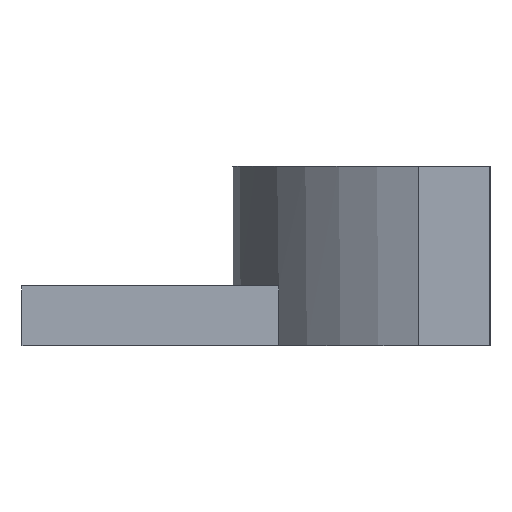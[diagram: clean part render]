
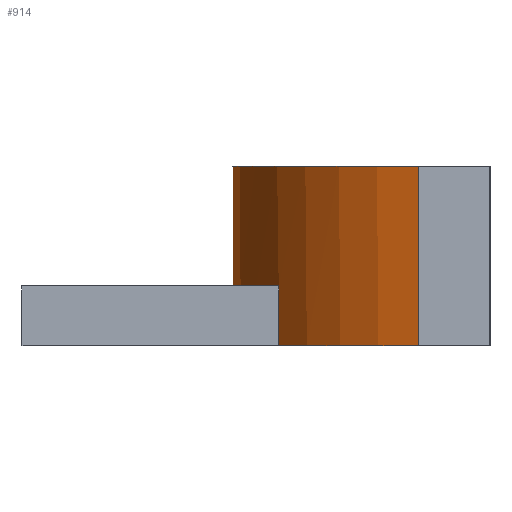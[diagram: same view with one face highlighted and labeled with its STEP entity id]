
A CAD part, left-side view. The second image highlights one B-rep face of the part: STEP entity #914.
In plain terms, the highlighted cylindrical face has radius 17.5 mm (diameter 35 mm), a partial arc.
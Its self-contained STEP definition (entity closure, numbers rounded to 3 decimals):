
#22 = VERTEX_POINT('',#23);
#23 = CARTESIAN_POINT('',(16.771,-10.875,0.));
#32 = PLANE('',#33);
#33 = AXIS2_PLACEMENT_3D('',#34,#35,#36);
#34 = CARTESIAN_POINT('',(0.,-15.875,0.));
#35 = DIRECTION('',(0.,0.,1.));
#36 = DIRECTION('',(1.,0.,-0.));
#44 = PLANE('',#45);
#45 = AXIS2_PLACEMENT_3D('',#46,#47,#48);
#46 = CARTESIAN_POINT('',(-24.5,-10.875,0.));
#47 = DIRECTION('',(0.,1.,0.));
#48 = DIRECTION('',(0.,0.,1.));
#56 = EDGE_CURVE('',#22,#57,#59,.T.);
#57 = VERTEX_POINT('',#58);
#58 = CARTESIAN_POINT('',(10.,-1.514,0.));
#59 = SURFACE_CURVE('',#60,(#65,#72),.PCURVE_S1.);
#60 = CIRCLE('',#61,17.5);
#61 = AXIS2_PLACEMENT_3D('',#62,#63,#64);
#62 = CARTESIAN_POINT('',(0.,-15.875,0.));
#63 = DIRECTION('',(0.,0.,1.));
#64 = DIRECTION('',(1.,0.,0.));
#65 = PCURVE('',#32,#66);
#66 = DEFINITIONAL_REPRESENTATION('',(#67),#71);
#67 = CIRCLE('',#68,17.5);
#68 = AXIS2_PLACEMENT_2D('',#69,#70);
#69 = CARTESIAN_POINT('',(0.,0.));
#70 = DIRECTION('',(1.,0.));
#71 = ( GEOMETRIC_REPRESENTATION_CONTEXT(2) 
PARAMETRIC_REPRESENTATION_CONTEXT() REPRESENTATION_CONTEXT('2D SPACE',''
  ) );
#72 = PCURVE('',#73,#78);
#73 = CYLINDRICAL_SURFACE('',#74,17.5);
#74 = AXIS2_PLACEMENT_3D('',#75,#76,#77);
#75 = CARTESIAN_POINT('',(0.,-15.875,0.));
#76 = DIRECTION('',(-0.,-0.,-1.));
#77 = DIRECTION('',(1.,0.,0.));
#78 = DEFINITIONAL_REPRESENTATION('',(#79),#83);
#79 = LINE('',#80,#81);
#80 = CARTESIAN_POINT('',(-0.,0.));
#81 = VECTOR('',#82,1.);
#82 = DIRECTION('',(-1.,0.));
#83 = ( GEOMETRIC_REPRESENTATION_CONTEXT(2) 
PARAMETRIC_REPRESENTATION_CONTEXT() REPRESENTATION_CONTEXT('2D SPACE',''
  ) );
#101 = PLANE('',#102);
#102 = AXIS2_PLACEMENT_3D('',#103,#104,#105);
#103 = CARTESIAN_POINT('',(10.,-2.375,0.));
#104 = DIRECTION('',(1.,0.,0.));
#105 = DIRECTION('',(0.,0.,1.));
#142 = VERTEX_POINT('',#143);
#143 = CARTESIAN_POINT('',(-10.,-1.514,0.));
#157 = PLANE('',#158);
#158 = AXIS2_PLACEMENT_3D('',#159,#160,#161);
#159 = CARTESIAN_POINT('',(-10.,-2.375,0.));
#160 = DIRECTION('',(1.,0.,0.));
#161 = DIRECTION('',(0.,0.,1.));
#169 = EDGE_CURVE('',#142,#170,#172,.T.);
#170 = VERTEX_POINT('',#171);
#171 = CARTESIAN_POINT('',(-16.771,-10.875,0.));
#172 = SURFACE_CURVE('',#173,(#178,#185),.PCURVE_S1.);
#173 = CIRCLE('',#174,17.5);
#174 = AXIS2_PLACEMENT_3D('',#175,#176,#177);
#175 = CARTESIAN_POINT('',(0.,-15.875,0.));
#176 = DIRECTION('',(0.,0.,1.));
#177 = DIRECTION('',(1.,0.,0.));
#178 = PCURVE('',#32,#179);
#179 = DEFINITIONAL_REPRESENTATION('',(#180),#184);
#180 = CIRCLE('',#181,17.5);
#181 = AXIS2_PLACEMENT_2D('',#182,#183);
#182 = CARTESIAN_POINT('',(0.,0.));
#183 = DIRECTION('',(1.,0.));
#184 = ( GEOMETRIC_REPRESENTATION_CONTEXT(2) 
PARAMETRIC_REPRESENTATION_CONTEXT() REPRESENTATION_CONTEXT('2D SPACE',''
  ) );
#185 = PCURVE('',#73,#186);
#186 = DEFINITIONAL_REPRESENTATION('',(#187),#191);
#187 = LINE('',#188,#189);
#188 = CARTESIAN_POINT('',(-0.,0.));
#189 = VECTOR('',#190,1.);
#190 = DIRECTION('',(-1.,0.));
#191 = ( GEOMETRIC_REPRESENTATION_CONTEXT(2) 
PARAMETRIC_REPRESENTATION_CONTEXT() REPRESENTATION_CONTEXT('2D SPACE',''
  ) );
#209 = PLANE('',#210);
#210 = AXIS2_PLACEMENT_3D('',#211,#212,#213);
#211 = CARTESIAN_POINT('',(-24.5,-10.875,0.));
#212 = DIRECTION('',(0.,1.,0.));
#213 = DIRECTION('',(0.,0.,1.));
#434 = EDGE_CURVE('',#435,#22,#437,.T.);
#435 = VERTEX_POINT('',#436);
#436 = CARTESIAN_POINT('',(16.771,-10.875,12.));
#437 = SURFACE_CURVE('',#438,(#442,#449),.PCURVE_S1.);
#438 = LINE('',#439,#440);
#439 = CARTESIAN_POINT('',(16.771,-10.875,0.));
#440 = VECTOR('',#441,1.);
#441 = DIRECTION('',(-0.,-0.,-1.));
#442 = PCURVE('',#44,#443);
#443 = DEFINITIONAL_REPRESENTATION('',(#444),#448);
#444 = LINE('',#445,#446);
#445 = CARTESIAN_POINT('',(0.,41.271));
#446 = VECTOR('',#447,1.);
#447 = DIRECTION('',(-1.,0.));
#448 = ( GEOMETRIC_REPRESENTATION_CONTEXT(2) 
PARAMETRIC_REPRESENTATION_CONTEXT() REPRESENTATION_CONTEXT('2D SPACE',''
  ) );
#449 = PCURVE('',#73,#450);
#450 = DEFINITIONAL_REPRESENTATION('',(#451),#455);
#451 = LINE('',#452,#453);
#452 = CARTESIAN_POINT('',(-0.29,0.));
#453 = VECTOR('',#454,1.);
#454 = DIRECTION('',(-0.,1.));
#455 = ( GEOMETRIC_REPRESENTATION_CONTEXT(2) 
PARAMETRIC_REPRESENTATION_CONTEXT() REPRESENTATION_CONTEXT('2D SPACE',''
  ) );
#473 = PLANE('',#474);
#474 = AXIS2_PLACEMENT_3D('',#475,#476,#477);
#475 = CARTESIAN_POINT('',(-24.5,-20.875,12.));
#476 = DIRECTION('',(0.,0.,1.));
#477 = DIRECTION('',(1.,0.,0.));
#846 = VERTEX_POINT('',#847);
#847 = CARTESIAN_POINT('',(-16.771,-10.875,12.));
#868 = EDGE_CURVE('',#846,#170,#869,.T.);
#869 = SURFACE_CURVE('',#870,(#874,#881),.PCURVE_S1.);
#870 = LINE('',#871,#872);
#871 = CARTESIAN_POINT('',(-16.771,-10.875,0.));
#872 = VECTOR('',#873,1.);
#873 = DIRECTION('',(-0.,-0.,-1.));
#874 = PCURVE('',#209,#875);
#875 = DEFINITIONAL_REPRESENTATION('',(#876),#880);
#876 = LINE('',#877,#878);
#877 = CARTESIAN_POINT('',(0.,7.729));
#878 = VECTOR('',#879,1.);
#879 = DIRECTION('',(-1.,0.));
#880 = ( GEOMETRIC_REPRESENTATION_CONTEXT(2) 
PARAMETRIC_REPRESENTATION_CONTEXT() REPRESENTATION_CONTEXT('2D SPACE',''
  ) );
#881 = PCURVE('',#73,#882);
#882 = DEFINITIONAL_REPRESENTATION('',(#883),#887);
#883 = LINE('',#884,#885);
#884 = CARTESIAN_POINT('',(-2.852,0.));
#885 = VECTOR('',#886,1.);
#886 = DIRECTION('',(-0.,1.));
#887 = ( GEOMETRIC_REPRESENTATION_CONTEXT(2) 
PARAMETRIC_REPRESENTATION_CONTEXT() REPRESENTATION_CONTEXT('2D SPACE',''
  ) );
#914 = ADVANCED_FACE('',(#915),#73,.T.);
#915 = FACE_BOUND('',#916,.F.);
#916 = EDGE_LOOP('',(#917,#918,#919,#941,#942,#943,#966,#999));
#917 = ORIENTED_EDGE('',*,*,#56,.F.);
#918 = ORIENTED_EDGE('',*,*,#434,.F.);
#919 = ORIENTED_EDGE('',*,*,#920,.T.);
#920 = EDGE_CURVE('',#435,#846,#921,.T.);
#921 = SURFACE_CURVE('',#922,(#927,#934),.PCURVE_S1.);
#922 = CIRCLE('',#923,17.5);
#923 = AXIS2_PLACEMENT_3D('',#924,#925,#926);
#924 = CARTESIAN_POINT('',(0.,-15.875,12.));
#925 = DIRECTION('',(0.,0.,1.));
#926 = DIRECTION('',(1.,0.,0.));
#927 = PCURVE('',#73,#928);
#928 = DEFINITIONAL_REPRESENTATION('',(#929),#933);
#929 = LINE('',#930,#931);
#930 = CARTESIAN_POINT('',(-0.,-12.));
#931 = VECTOR('',#932,1.);
#932 = DIRECTION('',(-1.,0.));
#933 = ( GEOMETRIC_REPRESENTATION_CONTEXT(2) 
PARAMETRIC_REPRESENTATION_CONTEXT() REPRESENTATION_CONTEXT('2D SPACE',''
  ) );
#934 = PCURVE('',#473,#935);
#935 = DEFINITIONAL_REPRESENTATION('',(#936),#940);
#936 = CIRCLE('',#937,17.5);
#937 = AXIS2_PLACEMENT_2D('',#938,#939);
#938 = CARTESIAN_POINT('',(24.5,5.));
#939 = DIRECTION('',(1.,0.));
#940 = ( GEOMETRIC_REPRESENTATION_CONTEXT(2) 
PARAMETRIC_REPRESENTATION_CONTEXT() REPRESENTATION_CONTEXT('2D SPACE',''
  ) );
#941 = ORIENTED_EDGE('',*,*,#868,.T.);
#942 = ORIENTED_EDGE('',*,*,#169,.F.);
#943 = ORIENTED_EDGE('',*,*,#944,.F.);
#944 = EDGE_CURVE('',#945,#142,#947,.T.);
#945 = VERTEX_POINT('',#946);
#946 = CARTESIAN_POINT('',(-10.,-1.514,4.));
#947 = SURFACE_CURVE('',#948,(#952,#959),.PCURVE_S1.);
#948 = LINE('',#949,#950);
#949 = CARTESIAN_POINT('',(-10.,-1.514,0.));
#950 = VECTOR('',#951,1.);
#951 = DIRECTION('',(-0.,-0.,-1.));
#952 = PCURVE('',#73,#953);
#953 = DEFINITIONAL_REPRESENTATION('',(#954),#958);
#954 = LINE('',#955,#956);
#955 = CARTESIAN_POINT('',(-2.179,0.));
#956 = VECTOR('',#957,1.);
#957 = DIRECTION('',(-0.,1.));
#958 = ( GEOMETRIC_REPRESENTATION_CONTEXT(2) 
PARAMETRIC_REPRESENTATION_CONTEXT() REPRESENTATION_CONTEXT('2D SPACE',''
  ) );
#959 = PCURVE('',#157,#960);
#960 = DEFINITIONAL_REPRESENTATION('',(#961),#965);
#961 = LINE('',#962,#963);
#962 = CARTESIAN_POINT('',(0.,-0.861));
#963 = VECTOR('',#964,1.);
#964 = DIRECTION('',(-1.,0.));
#965 = ( GEOMETRIC_REPRESENTATION_CONTEXT(2) 
PARAMETRIC_REPRESENTATION_CONTEXT() REPRESENTATION_CONTEXT('2D SPACE',''
  ) );
#966 = ORIENTED_EDGE('',*,*,#967,.T.);
#967 = EDGE_CURVE('',#945,#968,#970,.T.);
#968 = VERTEX_POINT('',#969);
#969 = CARTESIAN_POINT('',(10.,-1.514,4.));
#970 = SURFACE_CURVE('',#971,(#976,#983),.PCURVE_S1.);
#971 = CIRCLE('',#972,17.5);
#972 = AXIS2_PLACEMENT_3D('',#973,#974,#975);
#973 = CARTESIAN_POINT('',(0.,-15.875,4.));
#974 = DIRECTION('',(0.,0.,-1.));
#975 = DIRECTION('',(1.,0.,0.));
#976 = PCURVE('',#73,#977);
#977 = DEFINITIONAL_REPRESENTATION('',(#978),#982);
#978 = LINE('',#979,#980);
#979 = CARTESIAN_POINT('',(-6.283,-4.));
#980 = VECTOR('',#981,1.);
#981 = DIRECTION('',(1.,-0.));
#982 = ( GEOMETRIC_REPRESENTATION_CONTEXT(2) 
PARAMETRIC_REPRESENTATION_CONTEXT() REPRESENTATION_CONTEXT('2D SPACE',''
  ) );
#983 = PCURVE('',#984,#989);
#984 = PLANE('',#985);
#985 = AXIS2_PLACEMENT_3D('',#986,#987,#988);
#986 = CARTESIAN_POINT('',(-10.,-2.375,4.));
#987 = DIRECTION('',(0.,0.,1.));
#988 = DIRECTION('',(1.,0.,0.));
#989 = DEFINITIONAL_REPRESENTATION('',(#990),#998);
#990 = ( BOUNDED_CURVE() B_SPLINE_CURVE(2,(#991,#992,#993,#994,#995,#996
,#997),.UNSPECIFIED.,.T.,.F.) B_SPLINE_CURVE_WITH_KNOTS((1,2,2,2,2,1),(
    -2.094,0.,2.094,4.189,6.283,
8.378),.UNSPECIFIED.) CURVE() GEOMETRIC_REPRESENTATION_ITEM() 
RATIONAL_B_SPLINE_CURVE((1.,0.5,1.,0.5,1.,0.5,1.)) REPRESENTATION_ITEM(
  '') );
#991 = CARTESIAN_POINT('',(27.5,-13.5));
#992 = CARTESIAN_POINT('',(27.5,-43.811));
#993 = CARTESIAN_POINT('',(1.25,-28.655));
#994 = CARTESIAN_POINT('',(-25.,-13.5));
#995 = CARTESIAN_POINT('',(1.25,1.655));
#996 = CARTESIAN_POINT('',(27.5,16.811));
#997 = CARTESIAN_POINT('',(27.5,-13.5));
#998 = ( GEOMETRIC_REPRESENTATION_CONTEXT(2) 
PARAMETRIC_REPRESENTATION_CONTEXT() REPRESENTATION_CONTEXT('2D SPACE',''
  ) );
#999 = ORIENTED_EDGE('',*,*,#1000,.T.);
#1000 = EDGE_CURVE('',#968,#57,#1001,.T.);
#1001 = SURFACE_CURVE('',#1002,(#1006,#1013),.PCURVE_S1.);
#1002 = LINE('',#1003,#1004);
#1003 = CARTESIAN_POINT('',(10.,-1.514,0.));
#1004 = VECTOR('',#1005,1.);
#1005 = DIRECTION('',(-0.,-0.,-1.));
#1006 = PCURVE('',#73,#1007);
#1007 = DEFINITIONAL_REPRESENTATION('',(#1008),#1012);
#1008 = LINE('',#1009,#1010);
#1009 = CARTESIAN_POINT('',(-0.963,0.));
#1010 = VECTOR('',#1011,1.);
#1011 = DIRECTION('',(-0.,1.));
#1012 = ( GEOMETRIC_REPRESENTATION_CONTEXT(2) 
PARAMETRIC_REPRESENTATION_CONTEXT() REPRESENTATION_CONTEXT('2D SPACE',''
  ) );
#1013 = PCURVE('',#101,#1014);
#1014 = DEFINITIONAL_REPRESENTATION('',(#1015),#1019);
#1015 = LINE('',#1016,#1017);
#1016 = CARTESIAN_POINT('',(0.,-0.861));
#1017 = VECTOR('',#1018,1.);
#1018 = DIRECTION('',(-1.,0.));
#1019 = ( GEOMETRIC_REPRESENTATION_CONTEXT(2) 
PARAMETRIC_REPRESENTATION_CONTEXT() REPRESENTATION_CONTEXT('2D SPACE',''
  ) );
